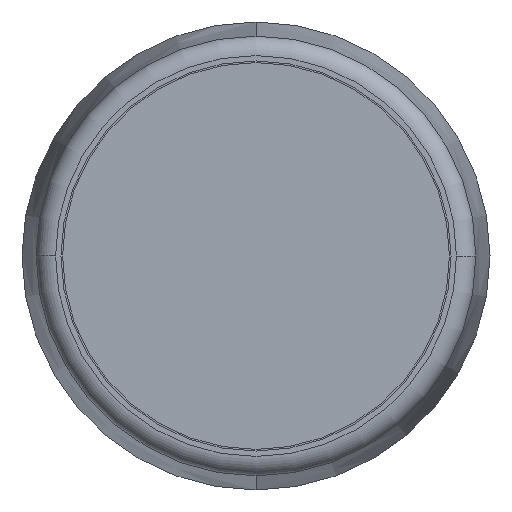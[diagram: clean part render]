
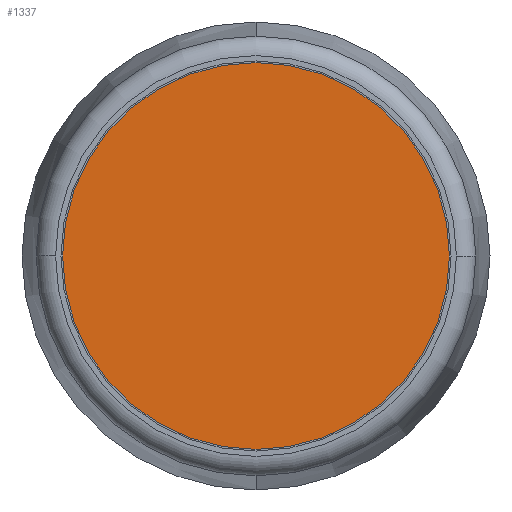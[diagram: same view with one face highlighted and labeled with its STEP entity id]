
A CAD part, front view. The second image highlights one B-rep face of the part: STEP entity #1337.
In plain terms, the highlighted planar face has unit normal (0, -1, 0).
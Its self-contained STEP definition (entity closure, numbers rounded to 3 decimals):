
#94 = VERTEX_POINT ( 'NONE', #466 ) ;
#198 = EDGE_LOOP ( 'NONE', ( #2594, #2591 ) ) ;
#466 = CARTESIAN_POINT ( 'NONE',  ( 0., 0.15, 2.5 ) ) ;
#640 = DIRECTION ( 'NONE',  ( 0., 1., 0. ) ) ;
#643 = CARTESIAN_POINT ( 'NONE',  ( 0., 0.15, 0. ) ) ;
#666 = DIRECTION ( 'NONE',  ( 0., 1., 0. ) ) ;
#671 = DIRECTION ( 'NONE',  ( 0., 0., 1. ) ) ;
#672 = DIRECTION ( 'NONE',  ( 0., 0., 1. ) ) ;
#1123 = DIRECTION ( 'NONE',  ( 0., 1., 0. ) ) ;
#1164 = FACE_OUTER_BOUND ( 'NONE', #198, .T. ) ;
#1165 = CARTESIAN_POINT ( 'NONE',  ( -2.562, 0.15, -10. ) ) ;
#1166 = DIRECTION ( 'NONE',  ( 0., 0., 1. ) ) ;
#1170 = PLANE ( 'NONE',  #2079 ) ;
#1337 = ADVANCED_FACE ( 'NONE', ( #1164 ), #1170, .F. ) ;
#1371 = EDGE_CURVE ( 'NONE', #2155, #94, #2061, .T. ) ;
#1442 = EDGE_CURVE ( 'NONE', #94, #2155, #1706, .T. ) ;
#1660 = AXIS2_PLACEMENT_3D ( 'NONE', #4062, #666, #671 ) ;
#1706 = CIRCLE ( 'NONE', #1660, 2.5 ) ;
#2061 = CIRCLE ( 'NONE', #2075, 2.5 ) ;
#2075 = AXIS2_PLACEMENT_3D ( 'NONE', #643, #640, #672 ) ;
#2079 = AXIS2_PLACEMENT_3D ( 'NONE', #1165, #1123, #1166 ) ;
#2155 = VERTEX_POINT ( 'NONE', #2979 ) ;
#2591 = ORIENTED_EDGE ( 'NONE', *, *, #1371, .F. ) ;
#2594 = ORIENTED_EDGE ( 'NONE', *, *, #1442, .F. ) ;
#2979 = CARTESIAN_POINT ( 'NONE',  ( 0., 0.15, -2.5 ) ) ;
#4062 = CARTESIAN_POINT ( 'NONE',  ( 0., 0.15, 0. ) ) ;
